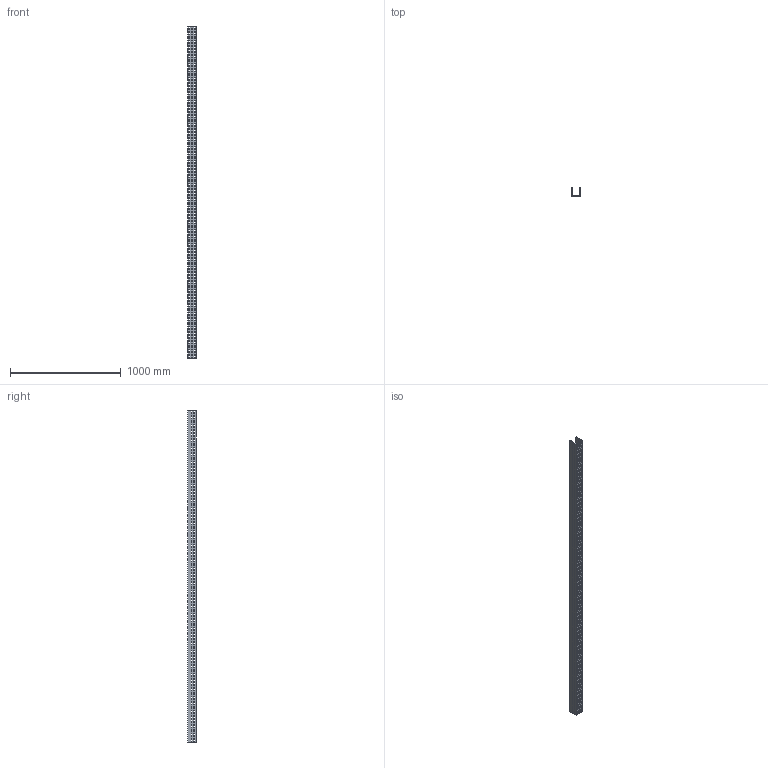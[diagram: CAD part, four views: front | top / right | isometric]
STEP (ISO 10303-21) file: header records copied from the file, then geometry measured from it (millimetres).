
FILE_DESCRIPTION (( 'STEP AP214' ), '1' );
FILE_NAME ('01B3C075.step', '2025-02-21T10:18:31', ( '' ), ( '' ), 'SwSTEP 2.0', 'SolidWorks 2023', '' );
FILE_SCHEMA (( 'AUTOMOTIVE_DESIGN' ));
Length unit declared in the file: millimetre
Products named in the file (1): 01B3C075
Bounding box: 79 x 79 x 3000 mm (x, y, z)
Volume: 2106300 mm3; surface area: 1339106 mm2
Topology: 1 solids, 1 shells, 2026 faces, 6072 edges, 4048 vertices
Faces by surface type: plane 2026
Entity records: 68855 total; most frequent: CARTESIAN_POINT 12147, ORIENTED_EDGE 12144, DIRECTION 10126, VECTOR 6072, LINE 6072, EDGE_CURVE 6072, VERTEX_POINT 4048, EDGE_LOOP 3034
